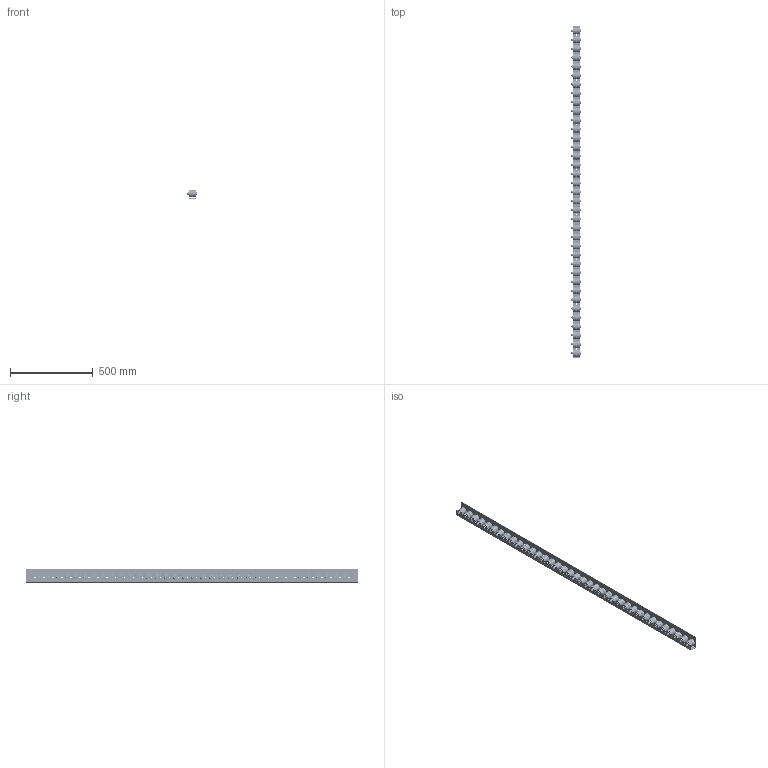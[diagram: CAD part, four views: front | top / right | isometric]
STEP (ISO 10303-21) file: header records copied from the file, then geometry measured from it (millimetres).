
FILE_DESCRIPTION( ( 'Unknown' ), '1' );
FILE_NAME( 'D:/Construktor/Listwy rolkowe 2015/Listwa T651L/Listwa T651L.stp', 'Unknown', ( 'Unknown' ), ( 'Unknown' ), 'PSStep 17.0.49', 'Unknown', ' ' );
FILE_SCHEMA( ( 'AUTOMOTIVE_DESIGN { 1 0 10303 214 1 1 1 1 }' ) );
Length unit declared in the file: millimetre
Products named in the file (11): Assem1; DIN_931_M8x35; DIN_931_M8x35-oa0; DIN_931_M8x35-oa1; Nut_DIN_980_M_M8_v10.50; Ceownik T650L; Rolka 611; Rolka 611-oa2; Rolka 611-oa3; Rolka 611-oa4; Rolka 611-oa5
Assembly tree (149 placements, depth 2):
  Assem1
    DIN_931_M8x35  x35
    DIN_931_M8x35-oa0
    DIN_931_M8x35-oa1
    Nut_DIN_980_M_M8_v10.50  x37
    Ceownik T650L
    Rolka 611  x70
    Rolka 611-oa2
    Rolka 611-oa3
    Rolka 611-oa4
    Rolka 611-oa5
Bounding box: 60.3 x 2000 x 80 mm (x, y, z)
Volume: 2041670.6 mm3; surface area: 1301458.4 mm2
Topology: 149 solids, 149 shells, 5829 faces, 15047 edges, 9886 vertices
Faces by surface type: plane 4080, cylinder 898, cone 555, torus 296
Full cylindrical faces by diameter (mm): 6.466 x37, 6.647 x37, 6.697 x37, 8 x74, 8.2 x154, 8.3 x74, 8.4 x37, 11.63 x37, 12.5 x37, 14 x148, 30 x74, 32 x74, 42 x74
Entity records: 21682 total; most frequent: CARTESIAN_POINT 3103, DIRECTION 3084, ORIENTED_EDGE 2324, AXIS2_PLACEMENT_3D 1307, EDGE_CURVE 1162, EDGE_LOOP 1090, VERTEX_POINT 902, FACE_OUTER_BOUND 741
